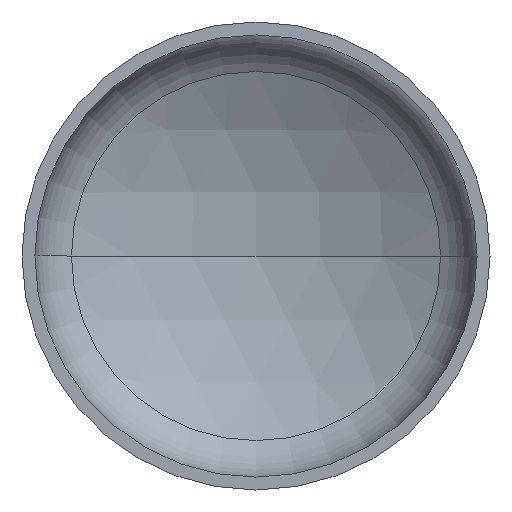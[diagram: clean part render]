
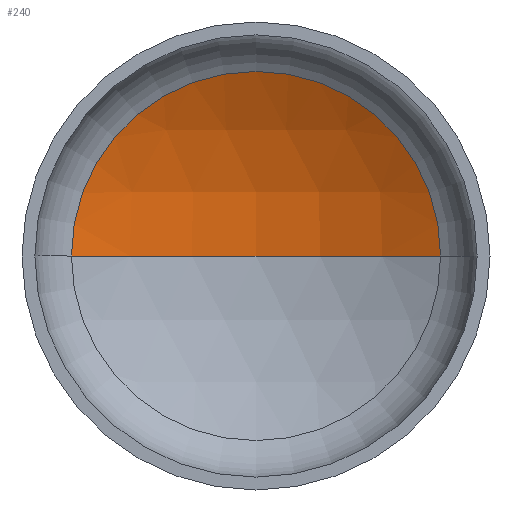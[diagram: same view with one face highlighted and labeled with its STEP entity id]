
A CAD part, front view. The second image highlights one B-rep face of the part: STEP entity #240.
In plain terms, the highlighted spherical face has radius 1920 mm.
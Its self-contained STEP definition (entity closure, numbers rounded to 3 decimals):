
#3 = CARTESIAN_POINT ( 'NONE',  ( 0., -1228.63, 0. ) ) ;
#4 = CARTESIAN_POINT ( 'NONE',  ( 0., -1228.63, 0. ) ) ;
#5 = CARTESIAN_POINT ( 'NONE',  ( 0., 691.37, 0. ) ) ;
#15 = AXIS2_PLACEMENT_3D ( 'NONE', #4, #346, #182 ) ;
#41 = VERTEX_POINT ( 'NONE', #252 ) ;
#45 = AXIS2_PLACEMENT_3D ( 'NONE', #244, #285, #189 ) ;
#49 = AXIS2_PLACEMENT_3D ( 'NONE', #3, #139, #228 ) ;
#51 = AXIS2_PLACEMENT_3D ( 'NONE', #208, #209, #296 ) ;
#101 = ORIENTED_EDGE ( 'NONE', *, *, #104, .T. ) ;
#103 = VERTEX_POINT ( 'NONE', #195 ) ;
#104 = EDGE_CURVE ( 'NONE', #41, #103, #217, .T. ) ;
#115 = EDGE_CURVE ( 'NONE', #142, #41, #129, .T. ) ;
#129 = CIRCLE ( 'NONE', #49, 1920. ) ;
#139 = DIRECTION ( 'NONE',  ( 0., 0., -1. ) ) ;
#141 = ORIENTED_EDGE ( 'NONE', *, *, #115, .T. ) ;
#142 = VERTEX_POINT ( 'NONE', #5 ) ;
#173 = EDGE_LOOP ( 'NONE', ( #176, #141, #101 ) ) ;
#176 = ORIENTED_EDGE ( 'NONE', *, *, #349, .F. ) ;
#182 = DIRECTION ( 'NONE',  ( 1., 0., 0. ) ) ;
#189 = DIRECTION ( 'NONE',  ( -1., 0., 0. ) ) ;
#195 = CARTESIAN_POINT ( 'NONE',  ( -946.374, 441.931, 0. ) ) ;
#208 = CARTESIAN_POINT ( 'NONE',  ( 0., 441.931, 0. ) ) ;
#209 = DIRECTION ( 'NONE',  ( 0., -1., 0. ) ) ;
#217 = CIRCLE ( 'NONE', #51, 946.374 ) ;
#228 = DIRECTION ( 'NONE',  ( -1., 0., 0. ) ) ;
#240 = ADVANCED_FACE ( 'NONE', ( #255 ), #317, .F. ) ;
#244 = CARTESIAN_POINT ( 'NONE',  ( 0., -1228.63, 0. ) ) ;
#252 = CARTESIAN_POINT ( 'NONE',  ( 946.374, 441.931, 0. ) ) ;
#255 = FACE_OUTER_BOUND ( 'NONE', #173, .T. ) ;
#285 = DIRECTION ( 'NONE',  ( 0., 0., -1. ) ) ;
#296 = DIRECTION ( 'NONE',  ( 1., 0., 0. ) ) ;
#317 = SPHERICAL_SURFACE ( 'NONE', #45, 1920. ) ;
#346 = DIRECTION ( 'NONE',  ( 0., 0., 1. ) ) ;
#349 = EDGE_CURVE ( 'NONE', #142, #103, #368, .T. ) ;
#368 = CIRCLE ( 'NONE', #15, 1920. ) ;
